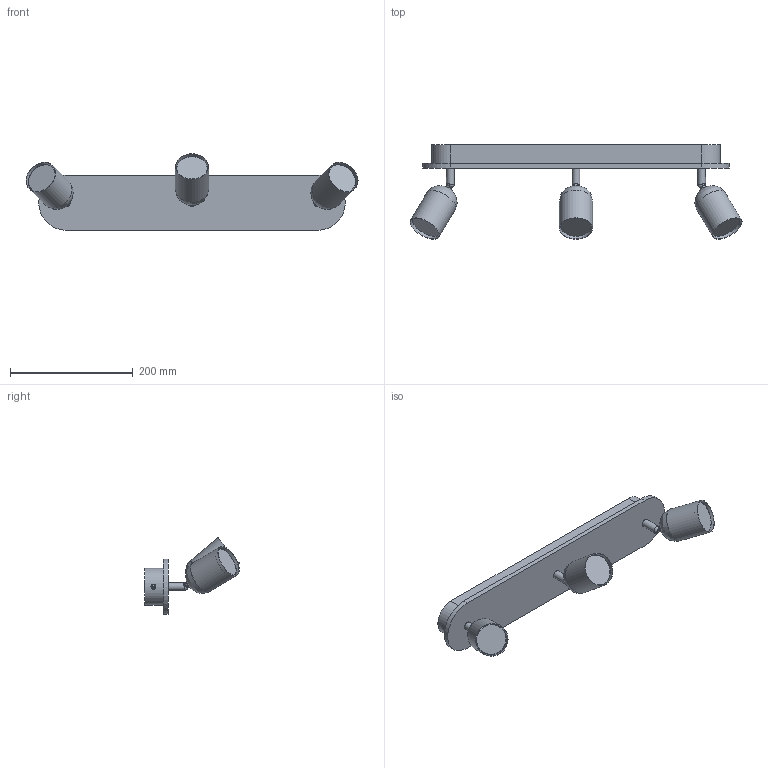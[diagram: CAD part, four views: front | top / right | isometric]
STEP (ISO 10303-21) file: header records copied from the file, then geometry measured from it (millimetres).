
FILE_DESCRIPTION(/* description */ (''),/* implementation_level */ '2;1');
FILE_NAME(/* name */ 'C:/Users/kubaw/OneDrive/Pulpit/3D/JAKUB_WIECZORKOWSKI_MAJ_PACZKA/OK/3292_TOP WOOD.step',/* time_stamp */ '2021-06-19T10:43:15+02:00',/* author */ (''),/* organization */ (''),/* preprocessor_version */ 'ST-DEVELOPER v18.1',/* originating_system */ 'Autodesk Translation Framework v10.9.0.1377',/* authorisation */ '');
FILE_SCHEMA (('AUTOMOTIVE_DESIGN { 1 0 10303 214 3 1 1 }'));
Length unit declared in the file: millimetre
Products named in the file (5): 3292_TOP WOOD; KLOSZ_TOP WOOD; KLOSZ_TOP WOOD v2(Mirror); ŚRUBA_TOP WOOD; ŚRUBA_TOP WOOD v1(Mirror)
Assembly tree (5 placements, depth 2):
  3292_TOP WOOD
    KLOSZ_TOP WOOD  x2
    KLOSZ_TOP WOOD v2(Mirror)
    ŚRUBA_TOP WOOD
    ŚRUBA_TOP WOOD v1(Mirror)
Bounding box: 541.55 x 153.9 x 124.72 mm (x, y, z)
Volume: 1289714.1 mm3; surface area: 289965.8 mm2
Topology: 27 solids, 27 shells, 173 faces, 363 edges, 244 vertices
Faces by surface type: plane 112, cylinder 32, bspline 17, torus 6, sphere 3, cone 3
Full cylindrical faces by diameter (mm): 8 x2, 12.6 x3, 12.87 x3, 53.1 x3, 54 x3
Entity records: 4226 total; most frequent: CARTESIAN_POINT 1154, DIRECTION 616, ORIENTED_EDGE 564, EDGE_CURVE 282, AXIS2_PLACEMENT_3D 234, VERTEX_POINT 192, LINE 148, VECTOR 148
